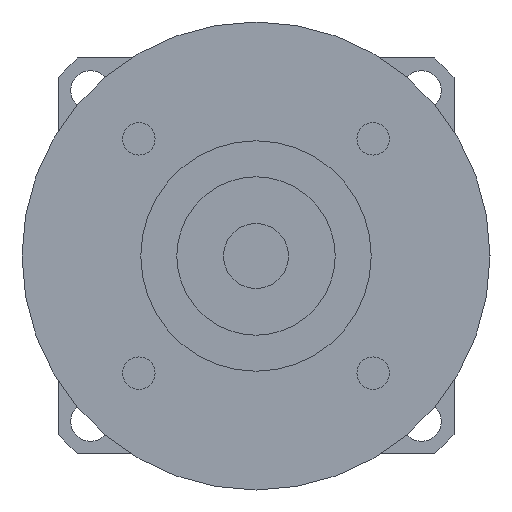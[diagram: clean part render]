
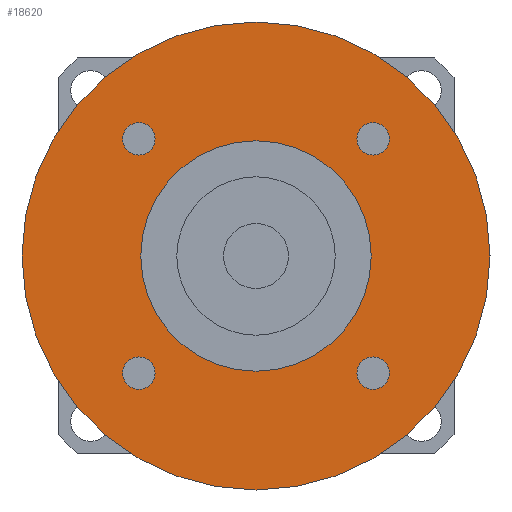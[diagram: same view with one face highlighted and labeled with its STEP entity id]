
A CAD part, left-side view. The second image highlights one B-rep face of the part: STEP entity #18620.
In plain terms, the highlighted planar face has unit normal (-1, 0, 0) as drawn and (0, 0, -1) by its records, which use the part's own axes.
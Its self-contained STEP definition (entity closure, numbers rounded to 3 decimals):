
#11090=CARTESIAN_POINT('',(-14.013,-16.263,-58.));
#11100=VERTEX_POINT('',#11090);
#11280=CARTESIAN_POINT('',(-18.513,-16.263,-58.));
#11290=VERTEX_POINT('',#11280);
#11320=CARTESIAN_POINT('',(-16.263,-16.263,-58.));
#11330=DIRECTION('',(0.,0.,-1.));
#11340=DIRECTION('',(0.,-1.,0.));
#11350=AXIS2_PLACEMENT_3D('',#11320,#11330,#11340);
#11360=CIRCLE('',#11350,2.25);
#11370=CARTESIAN_POINT('',(-16.263,-18.513,-58.));
#11380=VERTEX_POINT('',#11370);
#11390=EDGE_CURVE('',#11380,#11290,#11360,.T.);
#11410=EDGE_CURVE('',#11100,#11380,#11360,.T.);
#12700=CARTESIAN_POINT('',(0.,0.,
-58.));
#12710=DIRECTION('',(0.,0.,1.));
#12720=DIRECTION('',(0.,-1.,0.));
#12730=AXIS2_PLACEMENT_3D('',#12700,#12710,#12720);
#12740=CIRCLE('',#12730,16.);
#12750=CARTESIAN_POINT('',(0.,-16.,-58.));
#12760=VERTEX_POINT('',#12750);
#12770=CARTESIAN_POINT('',(16.,0.,-58.));
#12780=VERTEX_POINT('',#12770);
#12790=EDGE_CURVE('',#12760,#12780,#12740,.T.);
#13020=CARTESIAN_POINT('',(-16.,0.,-58.));
#13030=VERTEX_POINT('',#13020);
#13060=EDGE_CURVE('',#13030,#12760,#12740,.T.);
#17550=CARTESIAN_POINT('',(32.5,0.,-58.));
#17560=VERTEX_POINT('',#17550);
#17590=CARTESIAN_POINT('',(0.,0.,
-58.));
#17600=DIRECTION('',(0.,0.,1.));
#17610=DIRECTION('',(0.,-1.,0.));
#17620=AXIS2_PLACEMENT_3D('',#17590,#17600,#17610);
#17630=CIRCLE('',#17620,32.5);
#17640=CARTESIAN_POINT('',(0.,-32.5,-58.));
#17650=VERTEX_POINT('',#17640);
#17660=EDGE_CURVE('',#17650,#17560,#17630,.T.);
#17680=CARTESIAN_POINT('',(-32.5,0.,-58.));
#17690=VERTEX_POINT('',#17680);
#17700=EDGE_CURVE('',#17690,#17650,#17630,.T.);
#17820=CARTESIAN_POINT('',(0.,0.,
-58.));
#17830=DIRECTION('',(0.,0.,1.));
#17840=DIRECTION('',(-1.,0.,0.));
#17850=AXIS2_PLACEMENT_3D('',#17820,#17830,#17840);
#17860=PLANE('',#17850);
#17870=CARTESIAN_POINT('',(16.263,-16.263,-58.));
#17880=DIRECTION('',(0.,0.,-1.));
#17890=DIRECTION('',(1.,0.,0.));
#17900=AXIS2_PLACEMENT_3D('',#17870,#17880,#17890);
#17910=CIRCLE('',#17900,2.25);
#17920=CARTESIAN_POINT('',(18.513,-16.263,-58.));
#17930=VERTEX_POINT('',#17920);
#17940=CARTESIAN_POINT('',(16.263,-18.513,-58.));
#17950=VERTEX_POINT('',#17940);
#17960=EDGE_CURVE('',#17930,#17950,#17910,.T.);
#17970=ORIENTED_EDGE('',*,*,#17960,.F.);
#17980=CARTESIAN_POINT('',(16.263,-14.013,-58.));
#17990=VERTEX_POINT('',#17980);
#18000=EDGE_CURVE('',#17950,#17990,#17910,.T.);
#18010=ORIENTED_EDGE('',*,*,#18000,.F.);
#18020=EDGE_CURVE('',#17990,#17930,#17910,.T.);
#18030=ORIENTED_EDGE('',*,*,#18020,.F.);
#18040=EDGE_LOOP('',(#18030,#18010,#17970));
#18050=FACE_BOUND('',#18040,.T.);
#18060=CARTESIAN_POINT('',(16.263,16.263,-58.));
#18070=DIRECTION('',(0.,0.,-1.));
#18080=DIRECTION('',(0.,1.,0.));
#18090=AXIS2_PLACEMENT_3D('',#18060,#18070,#18080);
#18100=CIRCLE('',#18090,2.25);
#18110=CARTESIAN_POINT('',(16.263,18.513,-58.));
#18120=VERTEX_POINT('',#18110);
#18130=CARTESIAN_POINT('',(18.513,16.263,-58.));
#18140=VERTEX_POINT('',#18130);
#18150=EDGE_CURVE('',#18120,#18140,#18100,.T.);
#18160=ORIENTED_EDGE('',*,*,#18150,.F.);
#18170=CARTESIAN_POINT('',(14.013,16.263,-58.));
#18180=VERTEX_POINT('',#18170);
#18190=EDGE_CURVE('',#18140,#18180,#18100,.T.);
#18200=ORIENTED_EDGE('',*,*,#18190,.F.);
#18210=EDGE_CURVE('',#18180,#18120,#18100,.T.);
#18220=ORIENTED_EDGE('',*,*,#18210,.F.);
#18230=EDGE_LOOP('',(#18220,#18200,#18160));
#18240=FACE_BOUND('',#18230,.T.);
#18250=CARTESIAN_POINT('',(-16.263,16.263,-58.));
#18260=DIRECTION('',(0.,0.,-1.));
#18270=DIRECTION('',(-1.,0.,0.));
#18280=AXIS2_PLACEMENT_3D('',#18250,#18260,#18270);
#18290=CIRCLE('',#18280,2.25);
#18300=CARTESIAN_POINT('',(-18.513,16.263,-58.));
#18310=VERTEX_POINT('',#18300);
#18320=CARTESIAN_POINT('',(-16.263,18.513,-58.));
#18330=VERTEX_POINT('',#18320);
#18340=EDGE_CURVE('',#18310,#18330,#18290,.T.);
#18350=ORIENTED_EDGE('',*,*,#18340,.F.);
#18360=CARTESIAN_POINT('',(-16.263,14.013,-58.));
#18370=VERTEX_POINT('',#18360);
#18380=EDGE_CURVE('',#18330,#18370,#18290,.T.);
#18390=ORIENTED_EDGE('',*,*,#18380,.F.);
#18400=EDGE_CURVE('',#18370,#18310,#18290,.T.);
#18410=ORIENTED_EDGE('',*,*,#18400,.F.);
#18420=EDGE_LOOP('',(#18410,#18390,#18350));
#18430=FACE_BOUND('',#18420,.T.);
#18440=ORIENTED_EDGE('',*,*,#11390,.F.);
#18450=EDGE_CURVE('',#11290,#11100,#11360,.T.);
#18460=ORIENTED_EDGE('',*,*,#18450,.F.);
#18470=ORIENTED_EDGE('',*,*,#11410,.F.);
#18480=EDGE_LOOP('',(#18470,#18460,#18440));
#18490=FACE_BOUND('',#18480,.T.);
#18500=ORIENTED_EDGE('',*,*,#17660,.F.);
#18510=EDGE_CURVE('',#17560,#17690,#17630,.T.);
#18520=ORIENTED_EDGE('',*,*,#18510,.F.);
#18530=ORIENTED_EDGE('',*,*,#17700,.F.);
#18540=EDGE_LOOP('',(#18530,#18520,#18500));
#18550=FACE_OUTER_BOUND('',#18540,.T.);
#18560=EDGE_CURVE('',#12780,#13030,#12740,.T.);
#18570=ORIENTED_EDGE('',*,*,#18560,.T.);
#18580=ORIENTED_EDGE('',*,*,#12790,.T.);
#18590=ORIENTED_EDGE('',*,*,#13060,.T.);
#18600=EDGE_LOOP('',(#18590,#18580,#18570));
#18610=FACE_BOUND('',#18600,.T.);
#18620=ADVANCED_FACE('',(#18050,#18240,#18430,#18490,#18550,#18610),
#17860,.F.);
